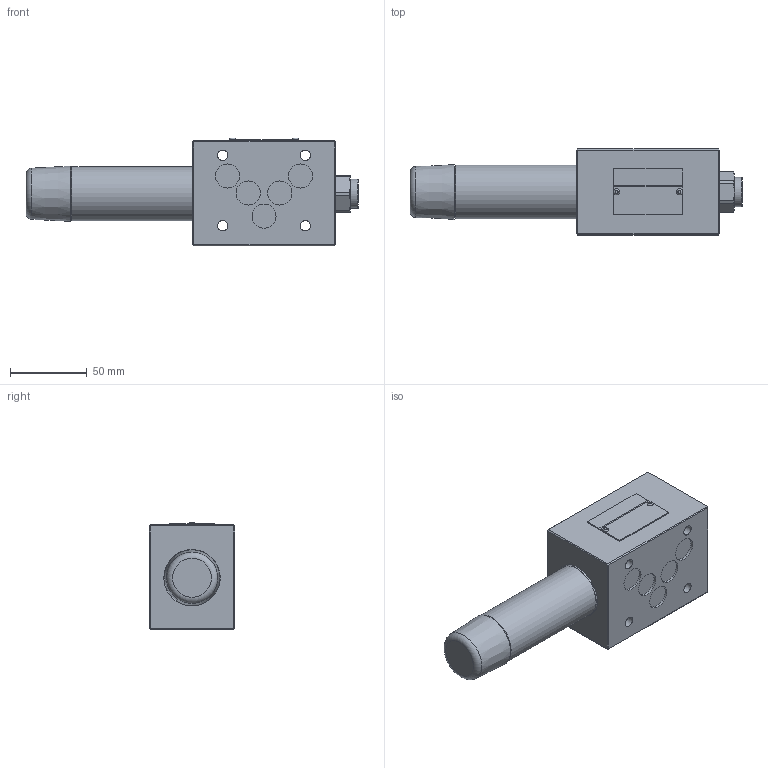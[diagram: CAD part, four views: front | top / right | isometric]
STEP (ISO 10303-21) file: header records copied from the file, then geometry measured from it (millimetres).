
FILE_DESCRIPTION(/* description */ (''),/* implementation_level */ '2;1');
FILE_NAME(/* name */ 'ZDR10DP-5XJ叠加式减压阀.prt.stp',/* time_stamp */ '2022-03-30T20:21:26+08:00',/* author */ (''),/* organization */ (''),/* preprocessor_version */ 'ST-DEVELOPER v16.7',/* originating_system */ 'SIEMENS PLM Software NX 12.0',/* authorisation */ '');
FILE_SCHEMA (('AUTOMOTIVE_DESIGN { 1 0 10303 214 3 1 1 1 }'));
Length unit declared in the file: millimetre
Products named in the file (1): ZDR10DP-5XJ叠加式减压阀
Bounding box: 216.6 x 56 x 70.3 mm (x, y, z)
Volume: 386338.4 mm3; surface area: 82497.2 mm2
Topology: 13 solids, 21 shells, 355 faces, 811 edges, 513 vertices
Faces by surface type: plane 150, cylinder 116, cone 30, torus 28, bspline 28, sphere 3
Full cylindrical faces by diameter (mm): 1.8 x4, 2 x2, 6 x1, 6.7 x4, 10.5 x5, 12.3 x2, 14.5 x1, 15.7 x5, 16 x2, 19 x1, 22 x1, 22.5 x1, 26.5 x1, 28 x1, 28.5 x2, 31.6 x1, 31.9 x1, 32.21 x1, 34.5 x1, 34.91 x1, 35 x1, 36.547 x1
Entity records: 26035 total; most frequent: CARTESIAN_POINT 18441, DIRECTION 1400, ORIENTED_EDGE 1392, EDGE_CURVE 696, AXIS2_PLACEMENT_3D 574, VERTEX_POINT 485, EDGE_LOOP 472, ADVANCED_FACE 355
